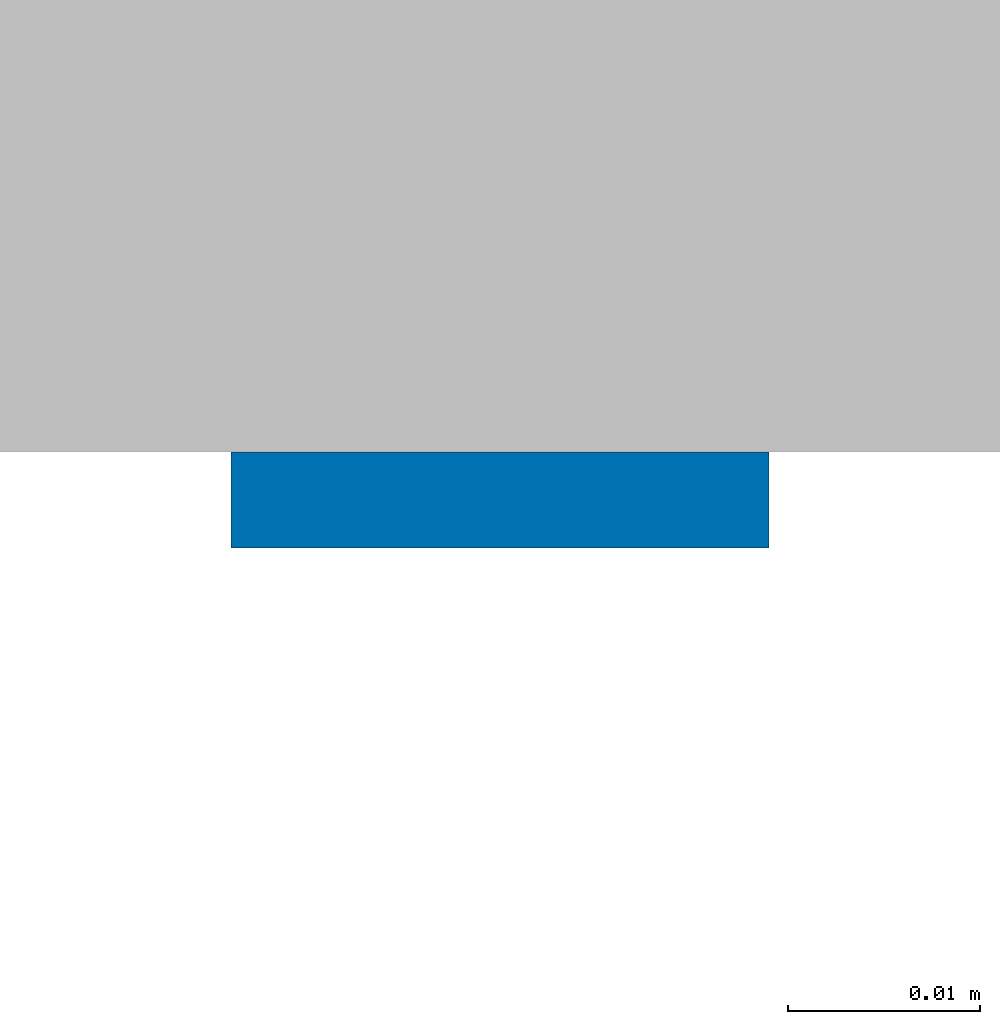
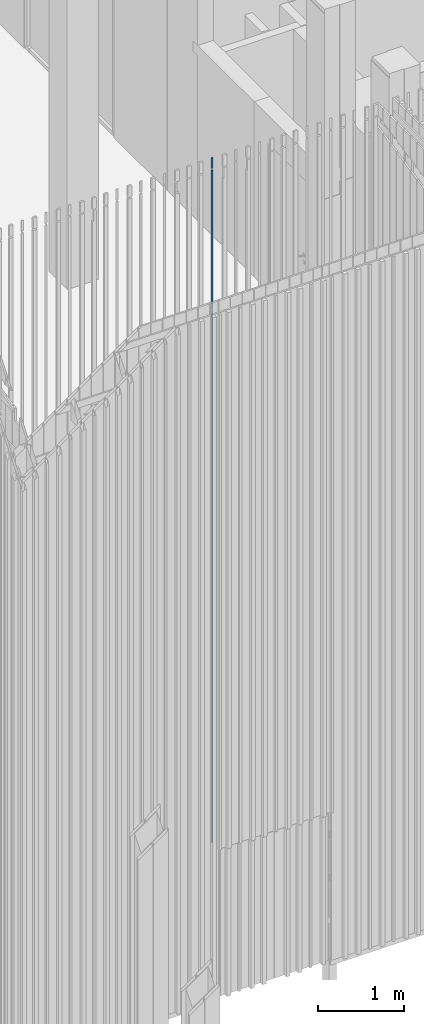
# One storey, part 100 of 390: 1 wall.
"""IFC2X3 building model written with IfcOpenShell, lengths in millimetres."""

from ifc_helpers import new_model, entity, si_unit, converted_unit, derived_unit, money_unit, direction, frame, origin_with_axes, place, context, subcontext, project, spatial, faceted_brep, material, material_list, type_object, element, save


model = new_model("IFC2X3")

# Units and contexts
model_context = context("Model", 3, precision=1e-05, world=origin_with_axes(), true_north=direction((0.0, 1.0)))
body_context = subcontext(model_context, "Body", "Model", "MODEL_VIEW")
ifc_project = project(units=[si_unit("LENGTHUNIT", "METRE", prefix="MILLI"), si_unit("AREAUNIT", "SQUARE_METRE"), si_unit("VOLUMEUNIT", "CUBIC_METRE"), converted_unit("PLANEANGLEUNIT", "DEGREE", entity("IfcPlaneAngleMeasure", 0.0174532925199), si_unit("PLANEANGLEUNIT", "RADIAN"), dimensions=[0, 0, 0, 0, 0, 0, 0]), si_unit("SOLIDANGLEUNIT", "STERADIAN"), money_unit("EUR"), converted_unit("TIMEUNIT", "Year", entity("IfcTimeMeasure", 31556926.0), si_unit("TIMEUNIT", "SECOND"), dimensions=[0, 0, 1, 0, 0, 0, 0]), si_unit("MASSUNIT", "GRAM", prefix="KILO"), si_unit("THERMODYNAMICTEMPERATUREUNIT", "DEGREE_CELSIUS"), si_unit("LUMINOUSINTENSITYUNIT", "LUMEN"), si_unit("ENERGYUNIT", "JOULE", prefix="MEGA"), derived_unit("THERMALCONDUCTANCEUNIT", [(si_unit("POWERUNIT", "WATT"), 1), (si_unit("LENGTHUNIT", "METRE"), -1), (si_unit("THERMODYNAMICTEMPERATUREUNIT", "KELVIN"), -1)]), derived_unit("SPECIFICHEATCAPACITYUNIT", [(si_unit("ENERGYUNIT", "JOULE"), 1), (si_unit("MASSUNIT", "GRAM", prefix="KILO"), -1), (si_unit("THERMODYNAMICTEMPERATUREUNIT", "KELVIN"), -1)]), derived_unit("MASSDENSITYUNIT", [(si_unit("MASSUNIT", "GRAM", prefix="KILO"), 1), (si_unit("VOLUMEUNIT", "CUBIC_METRE"), -1)])], contexts=[model_context])

# Site, building, storey
site_placement = place(None, origin_with_axes())
site = spatial("IfcSite", under=ifc_project, at=site_placement, Name="Site", CompositionType="ELEMENT")
building_placement = place(site_placement, origin_with_axes())
building = spatial("IfcBuilding", under=site, at=building_placement, Name="Building", CompositionType="ELEMENT")
storey_placement = place(building_placement, origin_with_axes())
storey = spatial("IfcBuildingStorey", under=building, at=storey_placement, Name="1 korrus", CompositionType="ELEMENT", Elevation=0.0)

# Wall
ifc_material = material(Name="Site specified")
ifc_material_list = material_list([ifc_material, ifc_material])
wall_type = type_object("IfcWallType", Name="Puitfassaadi ribistik", PredefinedType="NOTDEFINED")
wall_placement = place(storey_placement, frame((126623.999994, 45272.0000084, 100.000000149), z_axis=(0.0, 0.0, 1.0), x_axis=(-1.0, 0.0, 0.0)))
element("IfcWall", 1, at=wall_placement, inside=storey, type_object=wall_type, material=ifc_material_list, Name="Site specified", context=body_context, shape_type="Brep", body=[
    faceted_brep([(14.0, 9.00009631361, -3.12924797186e-06), (14.0, 8.99999999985, 9591.91726162), (-14.0, 8.99999999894, 9591.91726162), (-14.0, 9.00009631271, -3.12924797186e-06), (14.0, 14.0, 0.0), (14.0, 14.0, 9590.85447881), (-14.0, 14.0, 9590.85447881), (-14.0, 14.0, 0.0)], [[[0, 1, 2, 3]], [[4, 5, 1, 0]], [[5, 6, 2, 1]], [[3, 2, 6, 7]], [[0, 3, 7, 4]], [[7, 6, 5, 4]]]),
    faceted_brep([(-14.0, 14.0, 9764.99999985), (-14.0, 14.0, 9612.3236313), (-14.0, 8.99999999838, 9613.38641411), (-14.0, 8.99999999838, 9764.99999985), (14.0, 14.0, 9764.99999985), (14.0, 14.0, 9612.3236313), (14.0, 8.99999999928, 9613.38641411), (14.0, 8.99999999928, 9764.99999985)], [[[0, 1, 2, 3]], [[4, 5, 1, 0]], [[5, 6, 2, 1]], [[3, 2, 6, 7]], [[3, 7, 4, 0]], [[7, 6, 5, 4]]]),
])

save(model, "model.ifc")
